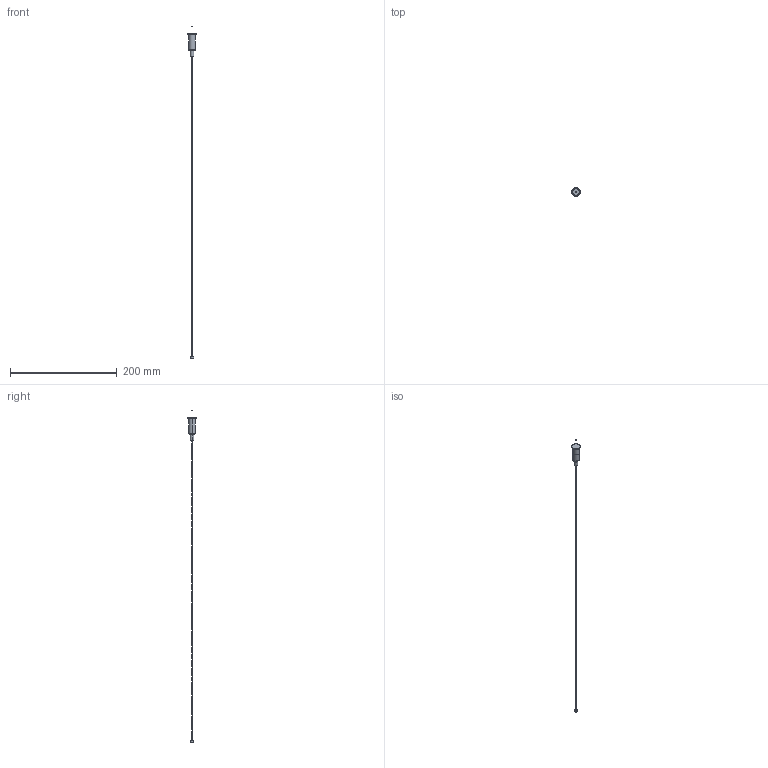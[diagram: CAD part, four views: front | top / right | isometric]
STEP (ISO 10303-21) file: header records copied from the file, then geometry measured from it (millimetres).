
FILE_DESCRIPTION(/* description */ (''),/* implementation_level */ '2;1');
FILE_NAME(/* name */ 'Suspension Kit',/* time_stamp */ '2018-11-07T17:48:16+01:00',/* author */ (''),/* organization */ (''),/* preprocessor_version */ 'ST-DEVELOPER v15',/* originating_system */ '',/* authorisation */ '');
FILE_SCHEMA (('AUTOMOTIVE_DESIGN'));
Length unit declared in the file: millimetre
Products named in the file (1): Document
Bounding box: 16 x 15.97 x 621.14 mm (x, y, z)
Volume: 5296.1 mm3; surface area: 4695.3 mm2
Topology: 2 solids, 5 shells, 45 faces, 101 edges, 65 vertices
Faces by surface type: bspline 24, plane 21
Entity records: 1378 total; most frequent: CARTESIAN_POINT 682, ORIENTED_EDGE 195, EDGE_CURVE 101, VERTEX_POINT 65, EDGE_LOOP 50, ADVANCED_FACE 45, FACE_OUTER_BOUND 45, B_SPLINE_CURVE_WITH_KNOTS 44
